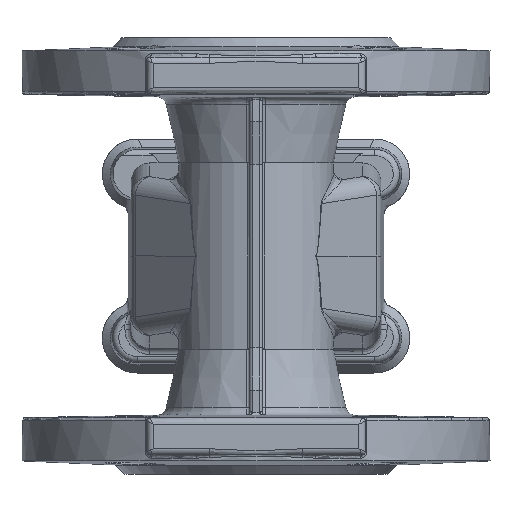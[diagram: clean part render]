
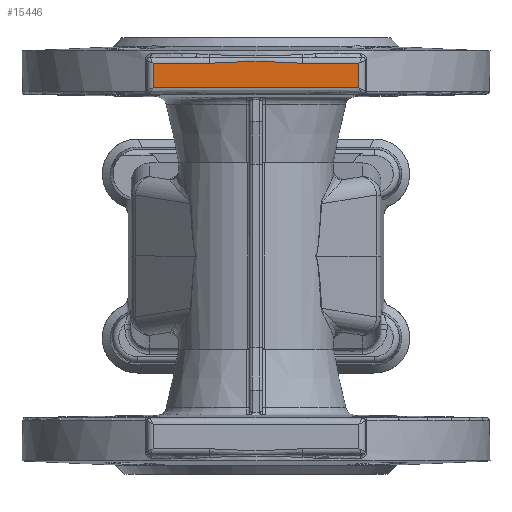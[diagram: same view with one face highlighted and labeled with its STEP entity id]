
A CAD part, front view. The second image highlights one B-rep face of the part: STEP entity #15446.
In plain terms, the highlighted planar face has unit normal (0, -1, 0) as drawn and (0, 0, -1) by its records, which use the part's own axes.
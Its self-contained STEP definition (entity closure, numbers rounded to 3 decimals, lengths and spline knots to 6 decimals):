
#657=B_SPLINE_CURVE_WITH_KNOTS('',3,(#48407,#48408,#48409,#48410,#48411,
#48412,#48413,#48414,#48415,#48416,#48417,#48418,#48419,#48420,#48421,#48422,
#48423,#48424,#48425,#48426,#48427,#48428,#48429,#48430,#48431,#48432,#48433,
#48434,#48435,#48436,#48437),.UNSPECIFIED.,.F.,.F.,(4,3,3,3,3,3,3,3,3,3,
4),(-1.,-0.9375,-0.875,-0.75,-0.625,-0.5,-0.375,-0.25,-0.125,-0.0625,
0.),.UNSPECIFIED.);
#702=B_SPLINE_CURVE_WITH_KNOTS('',3,(#49628,#49629,#49630,#49631,#49632,
#49633,#49634),.UNSPECIFIED.,.F.,.F.,(4,3,4),(0.,0.5,1.),
 .UNSPECIFIED.);
#3353=FACE_OUTER_BOUND('',#4307,.T.);
#4307=EDGE_LOOP('',(#13399,#13400,#13401,#13402,#13403,#13404));
#5682=LINE('',#48331,#6223);
#5683=LINE('',#48458,#6224);
#5685=LINE('',#48494,#6226);
#5687=LINE('',#48547,#6228);
#6223=VECTOR('',#19878,0.018075);
#6224=VECTOR('',#19885,0.018075);
#6226=VECTOR('',#19889,0.007885);
#6228=VECTOR('',#19895,0.007885);
#7364=VERTEX_POINT('',#48125);
#7367=VERTEX_POINT('',#48209);
#7394=VERTEX_POINT('',#48330);
#7396=VERTEX_POINT('',#48404);
#7399=VERTEX_POINT('',#48465);
#7404=VERTEX_POINT('',#48524);
#9383=EDGE_CURVE('',#7364,#7394,#5682,.F.);
#9387=EDGE_CURVE('',#7394,#7396,#657,.T.);
#9389=EDGE_CURVE('',#7396,#7367,#5683,.F.);
#9394=EDGE_CURVE('',#7399,#7364,#5685,.F.);
#9399=EDGE_CURVE('',#7367,#7404,#5687,.T.);
#9495=EDGE_CURVE('',#7399,#7404,#702,.T.);
#13399=ORIENTED_EDGE('',*,*,#9389,.T.);
#13400=ORIENTED_EDGE('',*,*,#9399,.T.);
#13401=ORIENTED_EDGE('',*,*,#9495,.F.);
#13402=ORIENTED_EDGE('',*,*,#9394,.T.);
#13403=ORIENTED_EDGE('',*,*,#9383,.T.);
#13404=ORIENTED_EDGE('',*,*,#9387,.T.);
#14712=PLANE('',#17044);
#15446=ADVANCED_FACE('',(#3353),#14712,.T.);
#17044=AXIS2_PLACEMENT_3D('',#49627,#20032,#20033);
#19878=DIRECTION('',(1.,0.,0.));
#19885=DIRECTION('',(1.,0.,0.));
#19889=DIRECTION('',(0.,1.,0.));
#19895=DIRECTION('',(0.,1.,0.));
#20032=DIRECTION('center_axis',(0.,0.,-1.));
#20033=DIRECTION('ref_axis',(-1.,0.,0.));
#48125=CARTESIAN_POINT('',(0.033,-0.061779,-0.0755));
#48209=CARTESIAN_POINT('',(-0.033,-0.061779,-0.0755));
#48330=CARTESIAN_POINT('',(0.014925,-0.061779,-0.0755));
#48331=CARTESIAN_POINT('',(0.014925,-0.061779,-0.0755));
#48404=CARTESIAN_POINT('',(-0.014925,-0.061779,-0.0755));
#48407=CARTESIAN_POINT('Ctrl Pts',(0.014925,-0.061779,
-0.0755));
#48408=CARTESIAN_POINT('Ctrl Pts',(0.014303,-0.061779,
-0.0755));
#48409=CARTESIAN_POINT('Ctrl Pts',(0.013682,-0.06179,
-0.0755));
#48410=CARTESIAN_POINT('Ctrl Pts',(0.01306,-0.061809,
-0.0755));
#48411=CARTESIAN_POINT('Ctrl Pts',(0.012439,-0.061829,
-0.0755));
#48412=CARTESIAN_POINT('Ctrl Pts',(0.011818,-0.061856,
-0.0755));
#48413=CARTESIAN_POINT('Ctrl Pts',(0.011197,-0.061888,
-0.0755));
#48414=CARTESIAN_POINT('Ctrl Pts',(0.009955,-0.061953,
-0.0755));
#48415=CARTESIAN_POINT('Ctrl Pts',(0.008713,-0.062038,
-0.0755));
#48416=CARTESIAN_POINT('Ctrl Pts',(0.007472,-0.062123,
-0.0755));
#48417=CARTESIAN_POINT('Ctrl Pts',(0.00623,-0.062208,
-0.0755));
#48418=CARTESIAN_POINT('Ctrl Pts',(0.004989,-0.062293,
-0.0755));
#48419=CARTESIAN_POINT('Ctrl Pts',(0.003747,-0.062355,
-0.0755));
#48420=CARTESIAN_POINT('Ctrl Pts',(0.002505,-0.062417,
-0.0755));
#48421=CARTESIAN_POINT('Ctrl Pts',(0.001262,-0.062456,
-0.0755));
#48422=CARTESIAN_POINT('Ctrl Pts',(0.000019,-0.062456,
-0.0755));
#48423=CARTESIAN_POINT('Ctrl Pts',(-0.001225,-0.062456,
-0.0755));
#48424=CARTESIAN_POINT('Ctrl Pts',(-0.002469,-0.062419,
-0.0755));
#48425=CARTESIAN_POINT('Ctrl Pts',(-0.003714,-0.062357,
-0.0755));
#48426=CARTESIAN_POINT('Ctrl Pts',(-0.004959,-0.062295,
-0.0755));
#48427=CARTESIAN_POINT('Ctrl Pts',(-0.006204,-0.062209,
-0.0755));
#48428=CARTESIAN_POINT('Ctrl Pts',(-0.007449,-0.062124,
-0.0755));
#48429=CARTESIAN_POINT('Ctrl Pts',(-0.008694,-0.062039,
-0.0755));
#48430=CARTESIAN_POINT('Ctrl Pts',(-0.009939,-0.061954,
-0.0755));
#48431=CARTESIAN_POINT('Ctrl Pts',(-0.011184,-0.061889,
-0.0755));
#48432=CARTESIAN_POINT('Ctrl Pts',(-0.011807,-0.061856,
-0.0755));
#48433=CARTESIAN_POINT('Ctrl Pts',(-0.01243,-0.061829,
-0.0755));
#48434=CARTESIAN_POINT('Ctrl Pts',(-0.013054,-0.06181,
-0.0755));
#48435=CARTESIAN_POINT('Ctrl Pts',(-0.013677,-0.06179,
-0.0755));
#48436=CARTESIAN_POINT('Ctrl Pts',(-0.014301,-0.061779,
-0.0755));
#48437=CARTESIAN_POINT('Ctrl Pts',(-0.014925,-0.061779,
-0.0755));
#48458=CARTESIAN_POINT('',(-0.033,-0.061779,-0.0755));
#48465=CARTESIAN_POINT('',(0.033,-0.053893,-0.0755));
#48494=CARTESIAN_POINT('',(0.033,-0.061779,-0.0755));
#48524=CARTESIAN_POINT('',(-0.033,-0.053893,-0.0755));
#48547=CARTESIAN_POINT('',(-0.033,-0.061779,-0.0755));
#49627=CARTESIAN_POINT('Origin',(-0.035,-0.063779,-0.0755));
#49628=CARTESIAN_POINT('Ctrl Pts',(0.033,-0.053893,
-0.0755));
#49629=CARTESIAN_POINT('Ctrl Pts',(0.022001,-0.053815,
-0.0755));
#49630=CARTESIAN_POINT('Ctrl Pts',(0.011001,-0.05377,
-0.0755));
#49631=CARTESIAN_POINT('Ctrl Pts',(0.,-0.05377,
-0.0755));
#49632=CARTESIAN_POINT('Ctrl Pts',(-0.011,-0.05377,
-0.0755));
#49633=CARTESIAN_POINT('Ctrl Pts',(-0.022,-0.053815,
-0.0755));
#49634=CARTESIAN_POINT('Ctrl Pts',(-0.033,-0.053893,
-0.0755));
